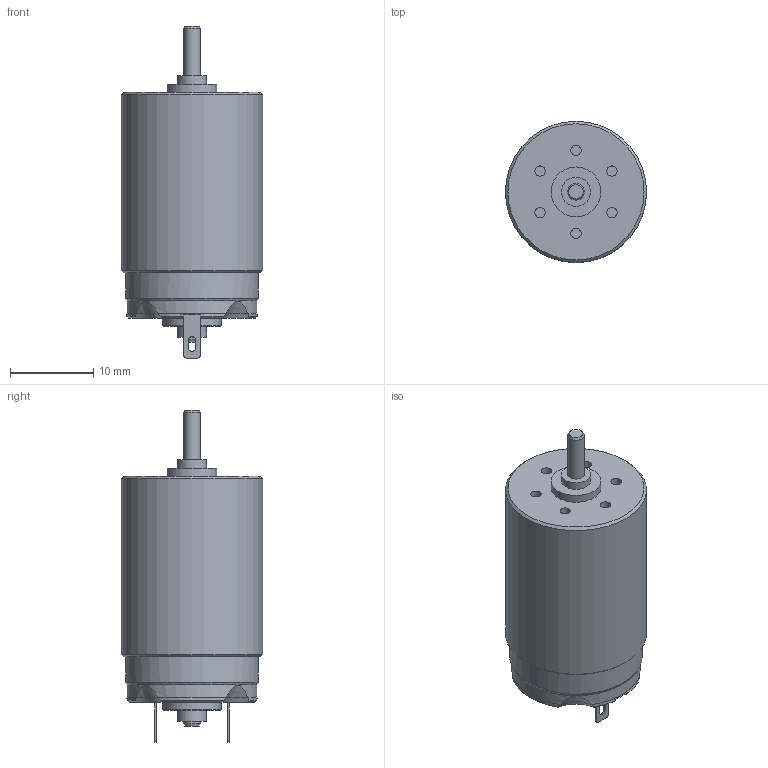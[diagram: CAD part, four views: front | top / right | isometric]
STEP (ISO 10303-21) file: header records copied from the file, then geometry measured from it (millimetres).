
FILE_DESCRIPTION(/* description */ (''),/* implementation_level */ '2;1');
FILE_NAME(/* name */ '1727_0H001_C.stp',/* time_stamp */ '2015-10-26T14:13:40+01:00',/* author */ (''),/* organization */ (''),/* preprocessor_version */ 'ST-DEVELOPER v15',/* originating_system */ 'SIEMENS PLM Software NX 8.5',/* authorisation */ '');
FILE_SCHEMA (('AP203_CONFIGURATION_CONTROLLED_3D_DESIGN_OF_MECHANICAL_PARTS_AND_ASSEMBLIES_MIM_LF { 1 0 10303 403 2 1 2}'));
Length unit declared in the file: millimetre
Products named in the file (1): winm0DC40115ti8k
Bounding box: 17 x 17 x 40 mm (x, y, z)
Volume: 6080.9 mm3; surface area: 2155.7 mm2
Topology: 1 solids, 1 shells, 119 faces, 279 edges, 182 vertices
Faces by surface type: plane 56, cylinder 40, cone 23
Full cylindrical faces by diameter (mm): 1.25 x6, 1.3 x3, 2 x2, 3.5 x2, 6 x1, 7 x1, 13.7 x1, 16 x1, 17 x1
Entity records: 3490 total; most frequent: CARTESIAN_POINT 730, DIRECTION 568, ORIENTED_EDGE 500, EDGE_CURVE 250, AXIS2_PLACEMENT_3D 230, VERTEX_POINT 180, EDGE_LOOP 170, ADVANCED_FACE 119
